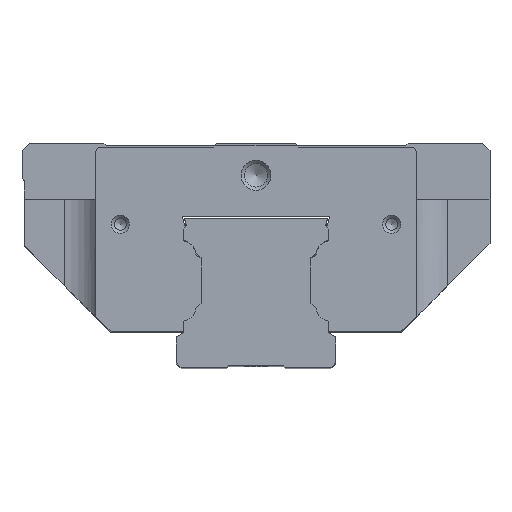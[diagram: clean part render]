
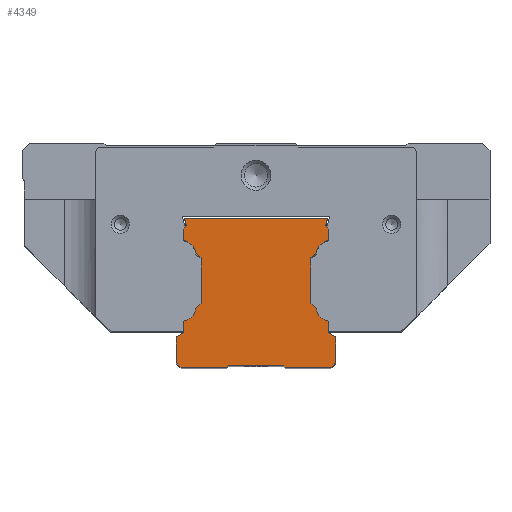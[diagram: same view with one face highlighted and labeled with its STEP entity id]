
A CAD part, top view. The second image highlights one B-rep face of the part: STEP entity #4349.
In plain terms, the highlighted planar face has unit normal (0, 0, 1).
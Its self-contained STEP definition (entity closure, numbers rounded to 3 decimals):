
#217=CIRCLE('',#4636,3.24);
#218=CIRCLE('',#4641,3.24);
#221=CIRCLE('',#4652,3.24);
#222=CIRCLE('',#4657,3.24);
#976=ORIENTED_EDGE('',*,*,#1410,.F.);
#977=ORIENTED_EDGE('',*,*,#1407,.F.);
#978=ORIENTED_EDGE('',*,*,#1472,.T.);
#979=ORIENTED_EDGE('',*,*,#1413,.F.);
#980=ORIENTED_EDGE('',*,*,#1417,.T.);
#981=ORIENTED_EDGE('',*,*,#1421,.F.);
#982=ORIENTED_EDGE('',*,*,#1442,.F.);
#983=ORIENTED_EDGE('',*,*,#1436,.T.);
#984=ORIENTED_EDGE('',*,*,#1433,.F.);
#985=ORIENTED_EDGE('',*,*,#1430,.F.);
#986=ORIENTED_EDGE('',*,*,#1427,.F.);
#987=ORIENTED_EDGE('',*,*,#1425,.T.);
#988=ORIENTED_EDGE('',*,*,#1439,.F.);
#989=ORIENTED_EDGE('',*,*,#1445,.F.);
#990=ORIENTED_EDGE('',*,*,#1448,.F.);
#991=ORIENTED_EDGE('',*,*,#1452,.T.);
#992=ORIENTED_EDGE('',*,*,#1454,.F.);
#993=ORIENTED_EDGE('',*,*,#1457,.F.);
#994=ORIENTED_EDGE('',*,*,#1473,.T.);
#995=ORIENTED_EDGE('',*,*,#1462,.T.);
#996=ORIENTED_EDGE('',*,*,#1464,.F.);
#997=ORIENTED_EDGE('',*,*,#1467,.F.);
#998=ORIENTED_EDGE('',*,*,#1470,.F.);
#999=ORIENTED_EDGE('',*,*,#1474,.T.);
#1000=ORIENTED_EDGE('',*,*,#1475,.T.);
#1001=ORIENTED_EDGE('',*,*,#1476,.F.);
#1002=ORIENTED_EDGE('',*,*,#1477,.T.);
#1003=ORIENTED_EDGE('',*,*,#1478,.F.);
#1004=ORIENTED_EDGE('',*,*,#1479,.T.);
#1005=ORIENTED_EDGE('',*,*,#1480,.F.);
#1407=EDGE_CURVE('',#1751,#1752,#2049,.T.);
#1410=EDGE_CURVE('',#1752,#1754,#2052,.T.);
#1413=EDGE_CURVE('',#1756,#1757,#2055,.T.);
#1417=EDGE_CURVE('',#1756,#1760,#2059,.T.);
#1421=EDGE_CURVE('',#1762,#1760,#2063,.T.);
#1425=EDGE_CURVE('',#1767,#1766,#217,.T.);
#1427=EDGE_CURVE('',#1767,#1768,#2067,.T.);
#1430=EDGE_CURVE('',#1768,#1770,#2070,.T.);
#1433=EDGE_CURVE('',#1770,#1772,#2073,.T.);
#1436=EDGE_CURVE('',#1774,#1772,#218,.T.);
#1439=EDGE_CURVE('',#1776,#1766,#2077,.T.);
#1442=EDGE_CURVE('',#1774,#1762,#2080,.T.);
#1445=EDGE_CURVE('',#1778,#1776,#2083,.T.);
#1448=EDGE_CURVE('',#1781,#1778,#2086,.T.);
#1452=EDGE_CURVE('',#1781,#1783,#2090,.T.);
#1454=EDGE_CURVE('',#1784,#1783,#2092,.T.);
#1457=EDGE_CURVE('',#1787,#1784,#2095,.T.);
#1462=EDGE_CURVE('',#1789,#1791,#221,.T.);
#1464=EDGE_CURVE('',#1792,#1791,#2100,.T.);
#1467=EDGE_CURVE('',#1794,#1792,#2103,.T.);
#1470=EDGE_CURVE('',#1797,#1794,#2106,.T.);
#1472=EDGE_CURVE('',#1751,#1757,#2108,.T.);
#1473=EDGE_CURVE('',#1787,#1789,#2109,.T.);
#1474=EDGE_CURVE('',#1797,#1798,#222,.T.);
#1475=EDGE_CURVE('',#1798,#1799,#2110,.T.);
#1476=EDGE_CURVE('',#1800,#1799,#2111,.T.);
#1477=EDGE_CURVE('',#1800,#1801,#2112,.T.);
#1478=EDGE_CURVE('',#1802,#1801,#2113,.T.);
#1479=EDGE_CURVE('',#1802,#1803,#2114,.T.);
#1480=EDGE_CURVE('',#1754,#1803,#2115,.T.);
#1751=VERTEX_POINT('',#6335);
#1752=VERTEX_POINT('',#6337);
#1754=VERTEX_POINT('',#6343);
#1756=VERTEX_POINT('',#6349);
#1757=VERTEX_POINT('',#6350);
#1760=VERTEX_POINT('',#6358);
#1762=VERTEX_POINT('',#6364);
#1766=VERTEX_POINT('',#6373);
#1767=VERTEX_POINT('',#6375);
#1768=VERTEX_POINT('',#6379);
#1770=VERTEX_POINT('',#6385);
#1772=VERTEX_POINT('',#6391);
#1774=VERTEX_POINT('',#6397);
#1776=VERTEX_POINT('',#6403);
#1778=VERTEX_POINT('',#6412);
#1781=VERTEX_POINT('',#6419);
#1783=VERTEX_POINT('',#6426);
#1784=VERTEX_POINT('',#6430);
#1787=VERTEX_POINT('',#6437);
#1789=VERTEX_POINT('',#6443);
#1791=VERTEX_POINT('',#6447);
#1792=VERTEX_POINT('',#6451);
#1794=VERTEX_POINT('',#6457);
#1797=VERTEX_POINT('',#6464);
#1798=VERTEX_POINT('',#6471);
#1799=VERTEX_POINT('',#6473);
#1800=VERTEX_POINT('',#6475);
#1801=VERTEX_POINT('',#6477);
#1802=VERTEX_POINT('',#6479);
#1803=VERTEX_POINT('',#6481);
#2049=LINE('',#6336,#2369);
#2052=LINE('',#6342,#2372);
#2055=LINE('',#6348,#2375);
#2059=LINE('',#6357,#2379);
#2063=LINE('',#6366,#2383);
#2067=LINE('',#6378,#2387);
#2070=LINE('',#6384,#2390);
#2073=LINE('',#6390,#2393);
#2077=LINE('',#6402,#2397);
#2080=LINE('',#6408,#2400);
#2083=LINE('',#6414,#2403);
#2086=LINE('',#6420,#2406);
#2090=LINE('',#6427,#2410);
#2092=LINE('',#6432,#2412);
#2095=LINE('',#6438,#2415);
#2100=LINE('',#6453,#2420);
#2103=LINE('',#6459,#2423);
#2106=LINE('',#6465,#2426);
#2108=LINE('',#6468,#2428);
#2109=LINE('',#6469,#2429);
#2110=LINE('',#6472,#2430);
#2111=LINE('',#6474,#2431);
#2112=LINE('',#6476,#2432);
#2113=LINE('',#6478,#2433);
#2114=LINE('',#6480,#2434);
#2115=LINE('',#6482,#2435);
#2369=VECTOR('',#5422,1000.);
#2372=VECTOR('',#5427,1000.);
#2375=VECTOR('',#5432,1000.);
#2379=VECTOR('',#5438,1000.);
#2383=VECTOR('',#5444,1000.);
#2387=VECTOR('',#5456,1000.);
#2390=VECTOR('',#5461,1000.);
#2393=VECTOR('',#5466,1000.);
#2397=VECTOR('',#5478,1000.);
#2400=VECTOR('',#5483,1000.);
#2403=VECTOR('',#5488,1000.);
#2406=VECTOR('',#5493,1000.);
#2410=VECTOR('',#5499,1000.);
#2412=VECTOR('',#5503,1000.);
#2415=VECTOR('',#5508,1000.);
#2420=VECTOR('',#5521,1000.);
#2423=VECTOR('',#5526,1000.);
#2426=VECTOR('',#5531,1000.);
#2428=VECTOR('',#5535,1000.);
#2429=VECTOR('',#5536,1000.);
#2430=VECTOR('',#5539,1000.);
#2431=VECTOR('',#5540,1000.);
#2432=VECTOR('',#5541,1000.);
#2433=VECTOR('',#5542,1000.);
#2434=VECTOR('',#5543,1000.);
#2435=VECTOR('',#5544,1000.);
#2707=EDGE_LOOP('',(#976,#977,#978,#979,#980,#981,#982,#983,#984,#985,#986,
#987,#988,#989,#990,#991,#992,#993,#994,#995,#996,#997,#998,#999,#1000,
#1001,#1002,#1003,#1004,#1005));
#2985=FACE_BOUND('',#2707,.T.);
#3102=PLANE('',#4656);
#4349=ADVANCED_FACE('',(#2985),#3102,.T.);
#4636=AXIS2_PLACEMENT_3D('',#6374,#5451,#5452);
#4641=AXIS2_PLACEMENT_3D('',#6396,#5471,#5472);
#4652=AXIS2_PLACEMENT_3D('',#6448,#5516,#5517);
#4656=AXIS2_PLACEMENT_3D('',#6467,#5533,#5534);
#4657=AXIS2_PLACEMENT_3D('',#6470,#5537,#5538);
#5422=DIRECTION('',(-0.707,0.707,0.));
#5427=DIRECTION('',(-1.,0.,0.));
#5432=DIRECTION('',(-0.707,-0.707,0.));
#5438=DIRECTION('',(0.,1.,0.));
#5444=DIRECTION('',(0.866,-0.5,0.));
#5451=DIRECTION('',(0.,0.,-1.));
#5452=DIRECTION('',(-0.986,0.169,0.));
#5456=DIRECTION('',(-0.707,-0.707,0.));
#5461=DIRECTION('',(0.,-1.,0.));
#5466=DIRECTION('',(0.707,-0.707,0.));
#5471=DIRECTION('',(0.,0.,-1.));
#5472=DIRECTION('',(-0.169,-0.986,0.));
#5478=DIRECTION('',(0.,-1.,0.));
#5483=DIRECTION('',(0.,-1.,0.));
#5488=DIRECTION('',(0.707,-0.707,0.));
#5493=DIRECTION('',(-0.259,-0.966,0.));
#5499=DIRECTION('',(-1.,0.,0.));
#5503=DIRECTION('',(-0.259,0.966,0.));
#5508=DIRECTION('',(0.707,0.707,0.));
#5516=DIRECTION('',(0.,0.,-1.));
#5517=DIRECTION('',(0.169,0.986,0.));
#5521=DIRECTION('',(-0.707,0.707,0.));
#5526=DIRECTION('',(0.,1.,0.));
#5531=DIRECTION('',(0.707,0.707,0.));
#5533=DIRECTION('',(0.,0.,1.));
#5534=DIRECTION('',(1.,0.,0.));
#5535=DIRECTION('',(1.,0.,0.));
#5536=DIRECTION('',(0.,-1.,0.));
#5537=DIRECTION('',(0.,0.,-1.));
#5538=DIRECTION('',(0.986,-0.169,0.));
#5539=DIRECTION('',(0.,-1.,0.));
#5540=DIRECTION('',(0.866,0.5,0.));
#5541=DIRECTION('',(0.,-1.,0.));
#5542=DIRECTION('',(-0.707,0.707,0.));
#5543=DIRECTION('',(1.,0.,0.));
#5544=DIRECTION('',(-0.707,-0.707,0.));
#6335=CARTESIAN_POINT('',(6.3,-18.5,89.179));
#6336=CARTESIAN_POINT('',(6.3,-18.5,89.179));
#6337=CARTESIAN_POINT('',(5.9,-18.1,89.179));
#6342=CARTESIAN_POINT('',(5.9,-18.1,89.179));
#6343=CARTESIAN_POINT('',(-5.9,-18.1,89.179));
#6348=CARTESIAN_POINT('',(17.,-17.5,89.179));
#6349=CARTESIAN_POINT('',(17.,-17.5,89.179));
#6350=CARTESIAN_POINT('',(16.,-18.5,89.179));
#6357=CARTESIAN_POINT('',(17.,-17.5,89.179));
#6358=CARTESIAN_POINT('',(17.,-11.966,89.179));
#6364=CARTESIAN_POINT('',(15.5,-11.1,89.179));
#6366=CARTESIAN_POINT('',(15.5,-11.1,89.179));
#6373=CARTESIAN_POINT('',(15.5,8.648,89.179));
#6374=CARTESIAN_POINT('',(16.046,5.454,89.179));
#6375=CARTESIAN_POINT('',(12.853,6.003,89.179));
#6378=CARTESIAN_POINT('',(12.853,6.003,89.179));
#6379=CARTESIAN_POINT('',(11.75,4.9,89.179));
#6384=CARTESIAN_POINT('',(11.75,4.9,89.179));
#6385=CARTESIAN_POINT('',(11.75,-4.9,89.179));
#6390=CARTESIAN_POINT('',(11.75,-4.9,89.179));
#6391=CARTESIAN_POINT('',(12.853,-6.003,89.179));
#6396=CARTESIAN_POINT('',(16.046,-5.454,89.179));
#6397=CARTESIAN_POINT('',(15.5,-8.648,89.179));
#6402=CARTESIAN_POINT('',(15.5,11.06,89.179));
#6403=CARTESIAN_POINT('',(15.5,11.06,89.179));
#6408=CARTESIAN_POINT('',(15.5,-8.648,89.179));
#6412=CARTESIAN_POINT('',(14.85,11.71,89.179));
#6414=CARTESIAN_POINT('',(14.85,11.71,89.179));
#6419=CARTESIAN_POINT('',(15.289,13.35,89.179));
#6420=CARTESIAN_POINT('',(15.289,13.35,89.179));
#6426=CARTESIAN_POINT('',(-15.289,13.35,89.179));
#6427=CARTESIAN_POINT('',(15.289,13.35,89.179));
#6430=CARTESIAN_POINT('',(-14.85,11.71,89.179));
#6432=CARTESIAN_POINT('',(-14.85,11.71,89.179));
#6437=CARTESIAN_POINT('',(-15.5,11.06,89.179));
#6438=CARTESIAN_POINT('',(-15.5,11.06,89.179));
#6443=CARTESIAN_POINT('',(-15.5,8.648,89.179));
#6447=CARTESIAN_POINT('',(-12.853,6.003,89.179));
#6448=CARTESIAN_POINT('',(-16.046,5.454,89.179));
#6451=CARTESIAN_POINT('',(-11.75,4.9,89.179));
#6453=CARTESIAN_POINT('',(-11.75,4.9,89.179));
#6457=CARTESIAN_POINT('',(-11.75,-4.9,89.179));
#6459=CARTESIAN_POINT('',(-11.75,-4.9,89.179));
#6464=CARTESIAN_POINT('',(-12.853,-6.003,89.179));
#6465=CARTESIAN_POINT('',(-12.853,-6.003,89.179));
#6467=CARTESIAN_POINT('',(0.,0.,89.179));
#6468=CARTESIAN_POINT('',(6.3,-18.5,89.179));
#6469=CARTESIAN_POINT('',(-15.5,11.06,89.179));
#6470=CARTESIAN_POINT('',(-16.046,-5.454,89.179));
#6471=CARTESIAN_POINT('',(-15.5,-8.648,89.179));
#6472=CARTESIAN_POINT('',(-15.5,-8.648,89.179));
#6473=CARTESIAN_POINT('',(-15.5,-11.1,89.179));
#6474=CARTESIAN_POINT('',(-17.,-11.966,89.179));
#6475=CARTESIAN_POINT('',(-17.,-11.966,89.179));
#6476=CARTESIAN_POINT('',(-17.,-11.966,89.179));
#6477=CARTESIAN_POINT('',(-17.,-17.5,89.179));
#6478=CARTESIAN_POINT('',(-16.,-18.5,89.179));
#6479=CARTESIAN_POINT('',(-16.,-18.5,89.179));
#6480=CARTESIAN_POINT('',(-16.,-18.5,89.179));
#6481=CARTESIAN_POINT('',(-6.3,-18.5,89.179));
#6482=CARTESIAN_POINT('',(-5.9,-18.1,89.179));
